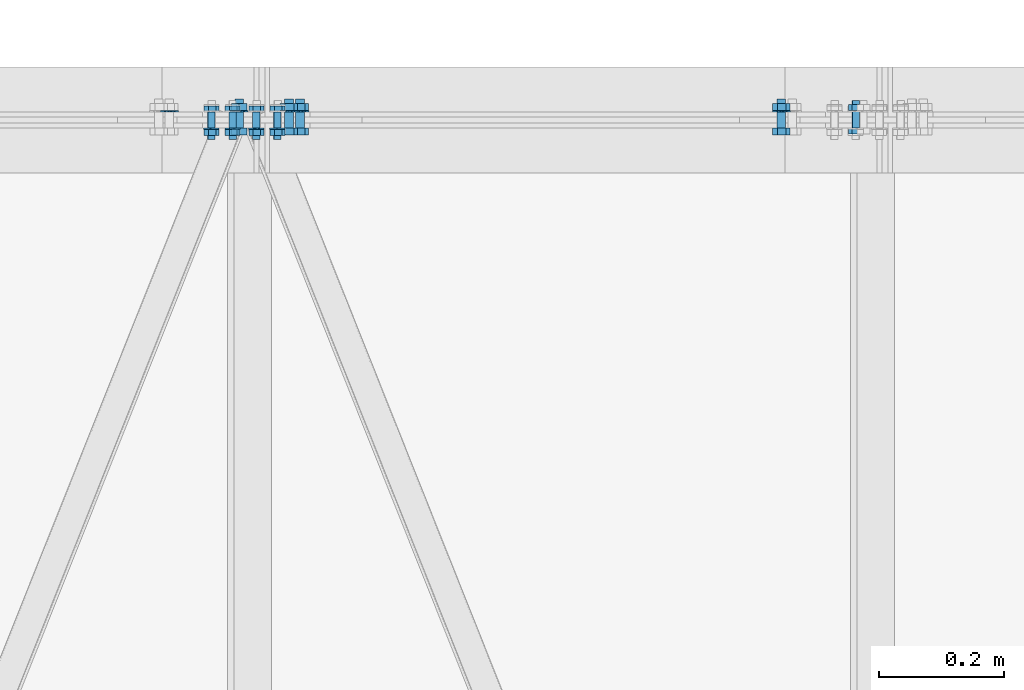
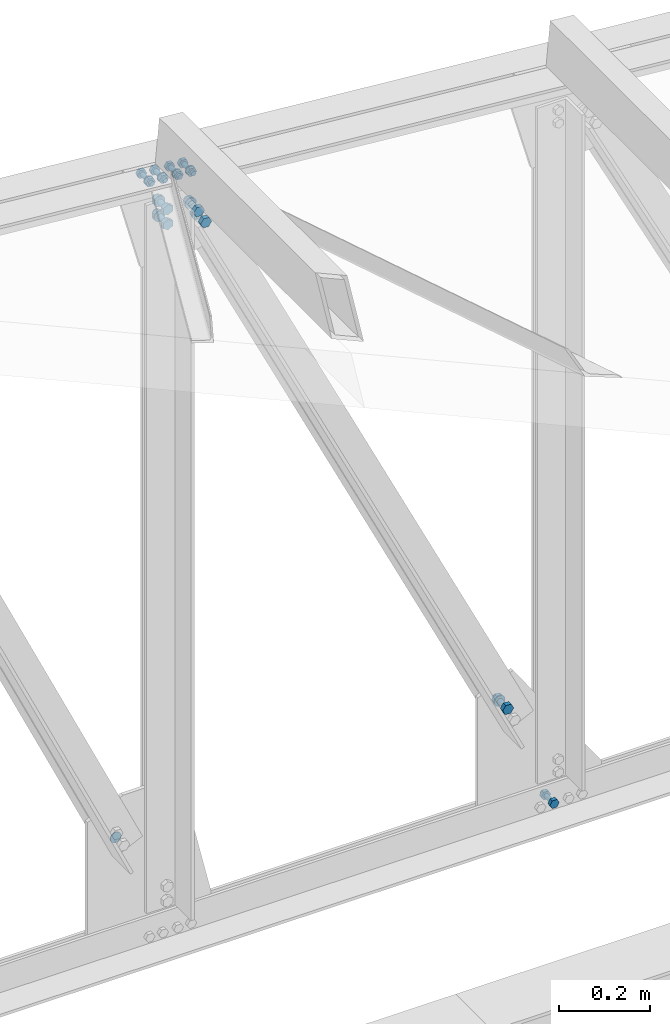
# One storey, part 194 of 251: 40 mechanical fasteners.
"""IFC4 building model written with IfcOpenShell, lengths in metres."""

from ifc_helpers import new_model, si_unit, frame, origin_with_axes, place, context, project, spatial, polyline, outline, extrude, type_object, element, save


model = new_model("IFC4")

# Units and contexts
model_context = context("Model", 3, precision=1e-05, world=origin_with_axes())
ifc_project = project(units=[si_unit("LENGTHUNIT", "METRE"), si_unit("AREAUNIT", "SQUARE_METRE"), si_unit("VOLUMEUNIT", "CUBIC_METRE"), si_unit("MASSUNIT", "GRAM", prefix="KILO"), si_unit("TIMEUNIT", "SECOND"), si_unit("PLANEANGLEUNIT", "RADIAN"), si_unit("SOLIDANGLEUNIT", "STERADIAN"), si_unit("THERMODYNAMICTEMPERATUREUNIT", "DEGREE_CELSIUS")], contexts=[model_context])

# Site, building, storey
placement_1 = place(None, origin_with_axes())
site = spatial("IfcSite", under=ifc_project, at=placement_1, Name="Italia", CompositionType="ELEMENT")
building = spatial("IfcBuilding", under=site, at=placement_1, Name="Deposito", CompositionType="ELEMENT")
storey = spatial("IfcBuildingStorey", under=building, at=placement_1, Name="Storey 0", CompositionType="ELEMENT", Elevation=0.0)

# Mechanical fasteners
mechanical_fastener_type_1 = type_object("IfcMechanicalFastenerType", Name="Reticolare 6", PredefinedType="BOLT")
placement_2 = place(placement_1, origin_with_axes())
mechanical_fastener_1_placement = place(placement_2, origin_with_axes())
element("IfcMechanicalFastener", 1, at=mechanical_fastener_1_placement, inside=storey, type_object=mechanical_fastener_type_1, Name="Reticolare 6", NominalDiameter=0.028, context=model_context, shape_type="SweptSolid", body=[
    extrude(outline(polyline([(0.0, 0.0), (-0.000476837, -0.00362349), (-0.0018754, -0.00699997), (-0.00410032, -0.00989962), (-0.00699997, -0.0121245), (-0.0103765, -0.0135231), (-0.0139999, -0.0139999), (-0.0176234, -0.0135231), (-0.0209999, -0.0121245), (-0.0238996, -0.00989962), (-0.0261245, -0.00699997), (-0.027523, -0.00362349), (-0.0279999, 0.0), (-0.027523, 0.00362349), (-0.0261245, 0.00699997), (-0.0238996, 0.00989962), (-0.0209999, 0.0121245), (-0.0176234, 0.0135231), (-0.0139999, 0.0139999), (-0.0103765, 0.0135231), (-0.00699997, 0.0121245), (-0.00410032, 0.00989962), (-0.0018754, 0.00699997), (-0.000476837, 0.00362349), (0.0, 0.0)])), frame((7.93889, 20.015, 5.27986), z_axis=(0.0, -1.0, 0.0), x_axis=(1.0, 0.0, 0.0)), (0.0, 0.0, 1.0), 0.0019989),
])
mechanical_fastener_type_2 = type_object("IfcMechanicalFastenerType", Name="Reticolare 6", PredefinedType="BOLT")
mechanical_fastener_2_placement = place(placement_2, origin_with_axes())
element("IfcMechanicalFastener", 2, at=mechanical_fastener_2_placement, inside=storey, type_object=mechanical_fastener_type_2, Name="Reticolare 6", NominalDiameter=0.0119997, context=model_context, shape_type="SweptSolid", body=[
    extrude(outline(polyline([(0.0, 0.0), (-0.0120001, 0.0), (-0.0180006, 0.0103922), (-0.0120001, 0.0207844), (0.0, 0.0207844), (0.00599957, 0.0103922), (0.0, 0.0)])), frame((9.02886, 19.987, 4.99661), z_axis=(0.0, -1.0, 0.0), x_axis=(1.0, 0.0, 0.0)), (0.0, 0.0, 1.0), 0.00959969),
])
mechanical_fastener_type_3 = type_object("IfcMechanicalFastenerType", Name="Reticolare 6", PredefinedType="BOLT")
mechanical_fastener_3_placement = place(placement_2, origin_with_axes())
element("IfcMechanicalFastener", 3, at=mechanical_fastener_3_placement, inside=storey, type_object=mechanical_fastener_type_3, Name="Reticolare 6", NominalDiameter=0.012, context=model_context, shape_type="SweptSolid", body=[
    extrude(outline(polyline([(0.0, 0.0), (-0.000204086, -0.00155306), (-0.000802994, -0.00299978), (-0.00175667, -0.00424242), (-0.00299931, -0.00519609), (-0.00444698, -0.00579548), (-0.00599957, -0.00600004), (-0.00755215, -0.00579548), (-0.00899982, -0.00519609), (-0.0102425, -0.00424242), (-0.0111961, -0.00299978), (-0.011795, -0.00155306), (-0.0119991, 0.0), (-0.011795, 0.00155306), (-0.0111961, 0.00299978), (-0.0102425, 0.00424242), (-0.00899982, 0.00519609), (-0.00755215, 0.00579548), (-0.00599957, 0.00600004), (-0.00444698, 0.00579548), (-0.00299931, 0.00519609), (-0.00175667, 0.00424242), (-0.000802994, 0.00299978), (-0.000204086, 0.00155306), (0.0, 0.0)])), frame((9.02886, 20.031, 5.007), z_axis=(0.0, -1.0, 0.0), x_axis=(1.0, 0.0, 0.0)), (0.0, 0.0, 1.0), 0.0440006),
])
mechanical_fastener_type_4 = type_object("IfcMechanicalFastenerType", Name="Reticolare 6", PredefinedType="BOLT")
mechanical_fastener_4_placement = place(placement_2, origin_with_axes())
element("IfcMechanicalFastener", 4, at=mechanical_fastener_4_placement, inside=storey, type_object=mechanical_fastener_type_4, Name="Reticolare 6", NominalDiameter=0.0119997, context=model_context, shape_type="SweptSolid", body=[
    extrude(outline(polyline([(0.0, 0.0), (-0.0120001, 0.0), (-0.0180006, 0.0103922), (-0.0120001, 0.0207844), (0.0, 0.0207844), (0.00599957, 0.0103922), (0.0, 0.0)])), frame((9.02886, 20.0246, 4.99661), z_axis=(0.0, -1.0, 0.0), x_axis=(1.0, 0.0, 0.0)), (0.0, 0.0, 1.0), 0.00959969),
])
mechanical_fastener_type_5 = type_object("IfcMechanicalFastenerType", Name="Reticolare 6", PredefinedType="BOLT")
mechanical_fastener_5_placement = place(placement_2, origin_with_axes())
element("IfcMechanicalFastener", 5, at=mechanical_fastener_5_placement, inside=storey, type_object=mechanical_fastener_type_5, Name="Reticolare 6", NominalDiameter=0.0139994, context=model_context, shape_type="SweptSolid", body=[
    extrude(outline(polyline([(0.0, 0.0), (-0.00612926, 0.0125871), (0.00170708, 0.0241885), (0.0156717, 0.0232029), (0.021801, 0.0106158), (0.0139647, -0.000985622), (0.0, 0.0)])), frame((8.89576, 19.987, 5.29291), z_axis=(0.0, -1.0, 0.0), x_axis=(1.0, 0.0, 0.0)), (0.0, 0.0, 1.0), 0.0112),
])
mechanical_fastener_type_6 = type_object("IfcMechanicalFastenerType", Name="Reticolare 6", PredefinedType="BOLT")
mechanical_fastener_6_placement = place(placement_2, origin_with_axes())
element("IfcMechanicalFastener", 6, at=mechanical_fastener_6_placement, inside=storey, type_object=mechanical_fastener_type_6, Name="Reticolare 6", NominalDiameter=0.014, context=model_context, shape_type="SweptSolid", body=[
    extrude(outline(polyline([(0.0, 0.0), (-0.000238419, -0.0018115), (-0.000937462, -0.00349998), (-0.0020504, -0.00494957), (-0.00349998, -0.00606203), (-0.00518799, -0.00676155), (-0.00699997, -0.00699997), (-0.00881195, -0.00676155), (-0.0105, -0.00606203), (-0.0119495, -0.00494957), (-0.0130625, -0.00349998), (-0.0137615, -0.0018115), (-0.0139999, 0.0), (-0.0137615, 0.0018115), (-0.0130625, 0.00349998), (-0.0119495, 0.00494957), (-0.0105, 0.00606203), (-0.00881195, 0.00676155), (-0.00699997, 0.00699997), (-0.00518799, 0.00676155), (-0.00349998, 0.00606203), (-0.0020504, 0.00494957), (-0.000937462, 0.00349998), (-0.000238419, 0.0018115), (0.0, 0.0)])), frame((8.91059, 20.034, 5.30451), z_axis=(0.0, -1.0, 0.0), x_axis=(1.0, 0.0, 0.0)), (0.0, 0.0, 1.0), 0.0470009),
])
mechanical_fastener_type_7 = type_object("IfcMechanicalFastenerType", Name="Reticolare 6", PredefinedType="BOLT")
mechanical_fastener_7_placement = place(placement_2, origin_with_axes())
element("IfcMechanicalFastener", 7, at=mechanical_fastener_7_placement, inside=storey, type_object=mechanical_fastener_type_7, Name="Reticolare 6", NominalDiameter=0.0139994, context=model_context, shape_type="SweptSolid", body=[
    extrude(outline(polyline([(0.0, 0.0), (-0.00612926, 0.0125871), (0.00170708, 0.0241885), (0.0156717, 0.0232029), (0.021801, 0.0106158), (0.0139647, -0.000985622), (0.0, 0.0)])), frame((8.89576, 20.0262, 5.29291), z_axis=(0.0, -1.0, 0.0), x_axis=(1.0, 0.0, 0.0)), (0.0, 0.0, 1.0), 0.0112),
])
mechanical_fastener_type_8 = type_object("IfcMechanicalFastenerType", Name="Reticolare 6", PredefinedType="BOLT")
mechanical_fastener_8_placement = place(placement_2, origin_with_axes())
element("IfcMechanicalFastener", 8, at=mechanical_fastener_8_placement, inside=storey, type_object=mechanical_fastener_type_8, Name="Reticolare 6", NominalDiameter=0.028, context=model_context, shape_type="SweptSolid", body=[
    extrude(outline(polyline([(0.0, 0.0), (-0.000476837, -0.00362349), (-0.00187588, -0.00699997), (-0.0041008, -0.00989962), (-0.00699997, -0.0121245), (-0.0103769, -0.0135231), (-0.0139999, -0.0139999), (-0.0176229, -0.0135231), (-0.0209999, -0.0121245), (-0.0238991, -0.00989962), (-0.026124, -0.00699997), (-0.027523, -0.00362349), (-0.0279999, 0.0), (-0.027523, 0.00362349), (-0.026124, 0.00699997), (-0.0238991, 0.00989962), (-0.0209999, 0.0121245), (-0.0176229, 0.0135231), (-0.0139999, 0.0139999), (-0.0103769, 0.0135231), (-0.00699997, 0.0121245), (-0.0041008, 0.00989962), (-0.00187588, 0.00699997), (-0.000476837, 0.00362349), (0.0, 0.0)])), frame((8.91759, 20.015, 5.30451), z_axis=(0.0, -1.0, 0.0), x_axis=(1.0, 0.0, 0.0)), (0.0, 0.0, 1.0), 0.0019989),
])
mechanical_fastener_type_9 = type_object("IfcMechanicalFastenerType", Name="Reticolare 6", PredefinedType="BOLT")
mechanical_fastener_9_placement = place(placement_2, origin_with_axes())
element("IfcMechanicalFastener", 9, at=mechanical_fastener_9_placement, inside=storey, type_object=mechanical_fastener_type_9, Name="Reticolare 6", NominalDiameter=0.0119996, context=model_context, shape_type="SweptSolid", body=[
    extrude(outline(polyline([(0.0, 0.0), (0.0119543, 0.00104618), (0.018837, -0.00878382), (0.0137653, -0.0196595), (0.00181103, -0.0207052), (-0.00507164, -0.0108757), (0.0, 0.0)])), frame((8.03301, 20.013, 7.05038), z_axis=(0.0, 1.0, 0.0), x_axis=(-1.0, 0.0, 0.0)), (0.0, 0.0, 1.0), 0.00959969),
])
mechanical_fastener_type_10 = type_object("IfcMechanicalFastenerType", Name="Reticolare 6", PredefinedType="BOLT")
mechanical_fastener_10_placement = place(placement_2, origin_with_axes())
element("IfcMechanicalFastener", 10, at=mechanical_fastener_10_placement, inside=storey, type_object=mechanical_fastener_type_10, Name="Reticolare 6", NominalDiameter=0.012, context=model_context, shape_type="SweptSolid", body=[
    extrude(outline(polyline([(0.0, 0.0), (-0.000204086, -0.00155306), (-0.000802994, -0.00299978), (-0.00175667, -0.00424242), (-0.00299931, -0.00519609), (-0.00444698, -0.00579548), (-0.00599957, -0.00600004), (-0.00755215, -0.00579548), (-0.00899982, -0.00519609), (-0.0102425, -0.00424242), (-0.0111961, -0.00299978), (-0.011795, -0.00155306), (-0.0119991, 0.0), (-0.011795, 0.00155306), (-0.0111961, 0.00299978), (-0.0102425, 0.00424242), (-0.00899982, 0.00519609), (-0.00755215, 0.00579548), (-0.00599957, 0.00600004), (-0.00444698, 0.00579548), (-0.00299931, 0.00519609), (-0.00175667, 0.00424242), (-0.000802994, 0.00299978), (-0.000204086, 0.00155306), (0.0, 0.0)])), frame((8.02013, 19.969, 7.04055), z_axis=(0.0, 1.0, 0.0), x_axis=(-1.0, 0.0, 0.0)), (0.0, 0.0, 1.0), 0.0440006),
])
mechanical_fastener_type_11 = type_object("IfcMechanicalFastenerType", Name="Reticolare 6", PredefinedType="BOLT")
mechanical_fastener_11_placement = place(placement_2, origin_with_axes())
element("IfcMechanicalFastener", 11, at=mechanical_fastener_11_placement, inside=storey, type_object=mechanical_fastener_type_11, Name="Reticolare 6", NominalDiameter=0.0119996, context=model_context, shape_type="SweptSolid", body=[
    extrude(outline(polyline([(0.0, 0.0), (0.0119543, 0.00104618), (0.018837, -0.00878382), (0.0137653, -0.0196595), (0.00181103, -0.0207052), (-0.00507164, -0.0108757), (0.0, 0.0)])), frame((8.03301, 19.9754, 7.05038), z_axis=(0.0, 1.0, 0.0), x_axis=(-1.0, 0.0, 0.0)), (0.0, 0.0, 1.0), 0.00959969),
])
mechanical_fastener_type_12 = type_object("IfcMechanicalFastenerType", Name="Reticolare 6", PredefinedType="BOLT")
mechanical_fastener_12_placement = place(placement_2, origin_with_axes())
element("IfcMechanicalFastener", 12, at=mechanical_fastener_12_placement, inside=storey, type_object=mechanical_fastener_type_12, Name="Reticolare 6", NominalDiameter=0.024, context=model_context, shape_type="SweptSolid", body=[
    extrude(outline(polyline([(0.0, 0.0), (-0.000409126, -0.00310564), (-0.00160789, -0.00600004), (-0.00351524, -0.00848532), (-0.00600052, -0.0103922), (-0.00889397, -0.011591), (-0.0120001, -0.0120001), (-0.0151062, -0.011591), (-0.0179996, -0.0103922), (-0.0204849, -0.00848532), (-0.0223923, -0.00600004), (-0.023591, -0.00310564), (-0.0240002, 0.0), (-0.023591, 0.00310564), (-0.0223923, 0.00600004), (-0.0204849, 0.00848532), (-0.0179996, 0.0103922), (-0.0151062, 0.011591), (-0.0120001, 0.0120001), (-0.00889397, 0.011591), (-0.00600052, 0.0103922), (-0.00351524, 0.00848532), (-0.00160789, 0.00600004), (-0.000409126, 0.00310564), (0.0, 0.0)])), frame((8.01413, 19.985, 7.04055), z_axis=(0.0, 1.0, 0.0), x_axis=(-1.0, 0.0, 0.0)), (0.0, 0.0, 1.0), 0.0019989),
])
mechanical_fastener_type_13 = type_object("IfcMechanicalFastenerType", Name="Reticolare 6", PredefinedType="BOLT")
mechanical_fastener_13_placement = place(placement_2, origin_with_axes())
element("IfcMechanicalFastener", 13, at=mechanical_fastener_13_placement, inside=storey, type_object=mechanical_fastener_type_13, Name="Reticolare 6", NominalDiameter=0.0119999, context=model_context, shape_type="SweptSolid", body=[
    extrude(outline(polyline([(0.0, 0.0), (0.0119543, 0.0010457), (0.0188375, -0.00878429), (0.0137658, -0.01966), (0.0018115, -0.0207057), (-0.00507116, -0.0108757), (0.0, 0.0)])), frame((7.99914, 20.013, 7.05334), z_axis=(0.0, 1.0, 0.0), x_axis=(-1.0, 0.0, 0.0)), (0.0, 0.0, 1.0), 0.00959969),
])
mechanical_fastener_type_14 = type_object("IfcMechanicalFastenerType", Name="Reticolare 6", PredefinedType="BOLT")
mechanical_fastener_14_placement = place(placement_2, origin_with_axes())
element("IfcMechanicalFastener", 14, at=mechanical_fastener_14_placement, inside=storey, type_object=mechanical_fastener_type_14, Name="Reticolare 6", NominalDiameter=0.012, context=model_context, shape_type="SweptSolid", body=[
    extrude(outline(polyline([(0.0, 0.0), (-0.000204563, -0.00155306), (-0.000803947, -0.00299978), (-0.00175762, -0.00424242), (-0.00300026, -0.00519609), (-0.00444698, -0.00579548), (-0.00600004, -0.00600004), (-0.0075531, -0.00579548), (-0.00899982, -0.00519609), (-0.0102425, -0.00424242), (-0.0111961, -0.00299978), (-0.0117955, -0.00155306), (-0.0120001, 0.0), (-0.0117955, 0.00155306), (-0.0111961, 0.00299978), (-0.0102425, 0.00424242), (-0.00899982, 0.00519609), (-0.0075531, 0.00579548), (-0.00600004, 0.00600004), (-0.00444698, 0.00579548), (-0.00300026, 0.00519609), (-0.00175762, 0.00424242), (-0.000803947, 0.00299978), (-0.000204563, 0.00155306), (0.0, 0.0)])), frame((7.98626, 19.969, 7.04352), z_axis=(0.0, 1.0, 0.0), x_axis=(-1.0, 0.0, 0.0)), (0.0, 0.0, 1.0), 0.0440006),
])
mechanical_fastener_type_15 = type_object("IfcMechanicalFastenerType", Name="Reticolare 6", PredefinedType="BOLT")
mechanical_fastener_15_placement = place(placement_2, origin_with_axes())
element("IfcMechanicalFastener", 15, at=mechanical_fastener_15_placement, inside=storey, type_object=mechanical_fastener_type_15, Name="Reticolare 6", NominalDiameter=0.0119999, context=model_context, shape_type="SweptSolid", body=[
    extrude(outline(polyline([(0.0, 0.0), (0.0119543, 0.0010457), (0.0188375, -0.00878429), (0.0137658, -0.01966), (0.0018115, -0.0207057), (-0.00507116, -0.0108757), (0.0, 0.0)])), frame((7.99914, 19.9754, 7.05334), z_axis=(0.0, 1.0, 0.0), x_axis=(-1.0, 0.0, 0.0)), (0.0, 0.0, 1.0), 0.00959969),
])
mechanical_fastener_type_16 = type_object("IfcMechanicalFastenerType", Name="Reticolare 6", PredefinedType="BOLT")
mechanical_fastener_16_placement = place(placement_2, origin_with_axes())
element("IfcMechanicalFastener", 16, at=mechanical_fastener_16_placement, inside=storey, type_object=mechanical_fastener_type_16, Name="Reticolare 6", NominalDiameter=0.024, context=model_context, shape_type="SweptSolid", body=[
    extrude(outline(polyline([(0.0, 0.0), (-0.000409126, -0.00310564), (-0.00160789, -0.00600004), (-0.00351477, -0.00848532), (-0.00600004, -0.0103922), (-0.00889444, -0.011591), (-0.0120001, -0.0120001), (-0.0151057, -0.011591), (-0.0180001, -0.0103922), (-0.0204854, -0.00848532), (-0.0223927, -0.00600004), (-0.0235915, -0.00310564), (-0.0239997, 0.0), (-0.0235915, 0.00310564), (-0.0223927, 0.00600004), (-0.0204854, 0.00848532), (-0.0180001, 0.0103922), (-0.0151057, 0.011591), (-0.0120001, 0.0120001), (-0.00889444, 0.011591), (-0.00600004, 0.0103922), (-0.00351477, 0.00848532), (-0.00160789, 0.00600004), (-0.000409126, 0.00310564), (0.0, 0.0)])), frame((7.98026, 19.985, 7.04351), z_axis=(0.0, 1.0, 0.0), x_axis=(-1.0, 0.0, 0.0)), (0.0, 0.0, 1.0), 0.0019989),
])
mechanical_fastener_type_17 = type_object("IfcMechanicalFastenerType", Name="Reticolare 6", PredefinedType="BOLT")
mechanical_fastener_17_placement = place(placement_2, origin_with_axes())
element("IfcMechanicalFastener", 17, at=mechanical_fastener_17_placement, inside=storey, type_object=mechanical_fastener_type_17, Name="Reticolare 6", NominalDiameter=0.0119997, context=model_context, shape_type="SweptSolid", body=[
    extrude(outline(polyline([(0.0, 0.0), (0.0119543, 0.0010457), (0.0188379, -0.00878429), (0.0137663, -0.01966), (0.00181198, -0.0207057), (-0.00507069, -0.0108757), (0.0, 0.0)])), frame((8.07086, 20.013, 7.04707), z_axis=(0.0, 1.0, 0.0), x_axis=(-1.0, 0.0, 0.0)), (0.0, 0.0, 1.0), 0.00959969),
])
mechanical_fastener_type_18 = type_object("IfcMechanicalFastenerType", Name="Reticolare 6", PredefinedType="BOLT")
mechanical_fastener_18_placement = place(placement_2, origin_with_axes())
element("IfcMechanicalFastener", 18, at=mechanical_fastener_18_placement, inside=storey, type_object=mechanical_fastener_type_18, Name="Reticolare 6", NominalDiameter=0.012, context=model_context, shape_type="SweptSolid", body=[
    extrude(outline(polyline([(0.0, 0.0), (-0.000204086, -0.00155306), (-0.000802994, -0.00299978), (-0.00175667, -0.00424242), (-0.00299931, -0.00519609), (-0.00444698, -0.00579548), (-0.00599957, -0.00600004), (-0.00755215, -0.00579548), (-0.00899982, -0.00519609), (-0.0102425, -0.00424242), (-0.0111961, -0.00299978), (-0.011795, -0.00155306), (-0.0119991, 0.0), (-0.011795, 0.00155306), (-0.0111961, 0.00299978), (-0.0102425, 0.00424242), (-0.00899982, 0.00519609), (-0.00755215, 0.00579548), (-0.00599957, 0.00600004), (-0.00444698, 0.00579548), (-0.00299931, 0.00519609), (-0.00175667, 0.00424242), (-0.000802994, 0.00299978), (-0.000204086, 0.00155306), (0.0, 0.0)])), frame((8.05798, 19.969, 7.03724), z_axis=(0.0, 1.0, 0.0), x_axis=(-1.0, 0.0, 0.0)), (0.0, 0.0, 1.0), 0.0440006),
])
mechanical_fastener_type_19 = type_object("IfcMechanicalFastenerType", Name="Reticolare 6", PredefinedType="BOLT")
mechanical_fastener_19_placement = place(placement_2, origin_with_axes())
element("IfcMechanicalFastener", 19, at=mechanical_fastener_19_placement, inside=storey, type_object=mechanical_fastener_type_19, Name="Reticolare 6", NominalDiameter=0.0119997, context=model_context, shape_type="SweptSolid", body=[
    extrude(outline(polyline([(0.0, 0.0), (0.0119543, 0.0010457), (0.0188379, -0.00878429), (0.0137663, -0.01966), (0.00181198, -0.0207057), (-0.00507069, -0.0108757), (0.0, 0.0)])), frame((8.07086, 19.9754, 7.04707), z_axis=(0.0, 1.0, 0.0), x_axis=(-1.0, 0.0, 0.0)), (0.0, 0.0, 1.0), 0.00959969),
])
mechanical_fastener_type_20 = type_object("IfcMechanicalFastenerType", Name="Reticolare 6", PredefinedType="BOLT")
mechanical_fastener_20_placement = place(placement_2, origin_with_axes())
element("IfcMechanicalFastener", 20, at=mechanical_fastener_20_placement, inside=storey, type_object=mechanical_fastener_type_20, Name="Reticolare 6", NominalDiameter=0.024, context=model_context, shape_type="SweptSolid", body=[
    extrude(outline(polyline([(0.0, 0.0), (-0.000409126, -0.00310564), (-0.00160789, -0.00600004), (-0.00351524, -0.00848532), (-0.00600052, -0.0103922), (-0.00889397, -0.011591), (-0.0120001, -0.0120001), (-0.0151062, -0.011591), (-0.0179996, -0.0103922), (-0.0204849, -0.00848532), (-0.0223923, -0.00600004), (-0.023591, -0.00310564), (-0.0240002, 0.0), (-0.023591, 0.00310564), (-0.0223923, 0.00600004), (-0.0204849, 0.00848532), (-0.0179996, 0.0103922), (-0.0151062, 0.011591), (-0.0120001, 0.0120001), (-0.00889397, 0.011591), (-0.00600052, 0.0103922), (-0.00351524, 0.00848532), (-0.00160789, 0.00600004), (-0.000409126, 0.00310564), (0.0, 0.0)])), frame((8.05198, 19.985, 7.03724), z_axis=(0.0, 1.0, 0.0), x_axis=(-1.0, 0.0, 0.0)), (0.0, 0.0, 1.0), 0.0019989),
])
mechanical_fastener_type_21 = type_object("IfcMechanicalFastenerType", Name="Reticolare 6", PredefinedType="BOLT")
mechanical_fastener_21_placement = place(placement_2, origin_with_axes())
element("IfcMechanicalFastener", 21, at=mechanical_fastener_21_placement, inside=storey, type_object=mechanical_fastener_type_21, Name="Reticolare 6", NominalDiameter=0.0119996, context=model_context, shape_type="SweptSolid", body=[
    extrude(outline(polyline([(0.0, 0.0), (0.0119543, 0.0010457), (0.0188379, -0.00878382), (0.0137663, -0.0196595), (0.00181198, -0.0207052), (-0.00507069, -0.0108757), (0.0, 0.0)])), frame((8.10474, 20.013, 7.04411), z_axis=(0.0, 1.0, 0.0), x_axis=(-1.0, 0.0, 0.0)), (0.0, 0.0, 1.0), 0.00959969),
])
mechanical_fastener_type_22 = type_object("IfcMechanicalFastenerType", Name="Reticolare 6", PredefinedType="BOLT")
mechanical_fastener_22_placement = place(placement_2, origin_with_axes())
element("IfcMechanicalFastener", 22, at=mechanical_fastener_22_placement, inside=storey, type_object=mechanical_fastener_type_22, Name="Reticolare 6", NominalDiameter=0.012, context=model_context, shape_type="SweptSolid", body=[
    extrude(outline(polyline([(0.0, 0.0), (-0.000204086, -0.00155306), (-0.000802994, -0.00299978), (-0.00175667, -0.00424242), (-0.00299931, -0.00519609), (-0.00444698, -0.00579548), (-0.00599957, -0.00600004), (-0.00755215, -0.00579548), (-0.00899982, -0.00519609), (-0.0102425, -0.00424242), (-0.0111961, -0.00299978), (-0.011795, -0.00155306), (-0.0119991, 0.0), (-0.011795, 0.00155306), (-0.0111961, 0.00299978), (-0.0102425, 0.00424242), (-0.00899982, 0.00519609), (-0.00755215, 0.00579548), (-0.00599957, 0.00600004), (-0.00444698, 0.00579548), (-0.00299931, 0.00519609), (-0.00175667, 0.00424242), (-0.000802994, 0.00299978), (-0.000204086, 0.00155306), (0.0, 0.0)])), frame((8.09185, 19.969, 7.03428), z_axis=(0.0, 1.0, 0.0), x_axis=(-1.0, 0.0, 0.0)), (0.0, 0.0, 1.0), 0.0440006),
])
mechanical_fastener_type_23 = type_object("IfcMechanicalFastenerType", Name="Reticolare 6", PredefinedType="BOLT")
mechanical_fastener_23_placement = place(placement_2, origin_with_axes())
element("IfcMechanicalFastener", 23, at=mechanical_fastener_23_placement, inside=storey, type_object=mechanical_fastener_type_23, Name="Reticolare 6", NominalDiameter=0.0119996, context=model_context, shape_type="SweptSolid", body=[
    extrude(outline(polyline([(0.0, 0.0), (0.0119543, 0.0010457), (0.0188379, -0.00878382), (0.0137663, -0.0196595), (0.00181198, -0.0207052), (-0.00507069, -0.0108757), (0.0, 0.0)])), frame((8.10474, 19.9754, 7.04411), z_axis=(0.0, 1.0, 0.0), x_axis=(-1.0, 0.0, 0.0)), (0.0, 0.0, 1.0), 0.00959969),
])
mechanical_fastener_type_24 = type_object("IfcMechanicalFastenerType", Name="Reticolare 6", PredefinedType="BOLT")
mechanical_fastener_24_placement = place(placement_2, origin_with_axes())
element("IfcMechanicalFastener", 24, at=mechanical_fastener_24_placement, inside=storey, type_object=mechanical_fastener_type_24, Name="Reticolare 6", NominalDiameter=0.024, context=model_context, shape_type="SweptSolid", body=[
    extrude(outline(polyline([(0.0, 0.0), (-0.000409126, -0.00310564), (-0.00160789, -0.00600004), (-0.00351524, -0.00848532), (-0.00600052, -0.0103922), (-0.00889397, -0.011591), (-0.0120001, -0.0120001), (-0.0151062, -0.011591), (-0.0179996, -0.0103922), (-0.0204849, -0.00848532), (-0.0223923, -0.00600004), (-0.023591, -0.00310564), (-0.0240002, 0.0), (-0.023591, 0.00310564), (-0.0223923, 0.00600004), (-0.0204849, 0.00848532), (-0.0179996, 0.0103922), (-0.0151062, 0.011591), (-0.0120001, 0.0120001), (-0.00889397, 0.011591), (-0.00600052, 0.0103922), (-0.00351524, 0.00848532), (-0.00160789, 0.00600004), (-0.000409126, 0.00310564), (0.0, 0.0)])), frame((8.08585, 19.985, 7.03428), z_axis=(0.0, 1.0, 0.0), x_axis=(-1.0, 0.0, 0.0)), (0.0, 0.0, 1.0), 0.0019989),
])
mechanical_fastener_type_25 = type_object("IfcMechanicalFastenerType", Name="Reticolare 6", PredefinedType="BOLT")
mechanical_fastener_25_placement = place(placement_2, origin_with_axes())
element("IfcMechanicalFastener", 25, at=mechanical_fastener_25_placement, inside=storey, type_object=mechanical_fastener_type_25, Name="Reticolare 6", NominalDiameter=0.0139997, context=model_context, shape_type="SweptSolid", body=[
    extrude(outline(polyline([(0.0, 0.0), (0.0, -0.0139999), (-0.0121241, -0.0209999), (-0.0242481, -0.0139999), (-0.0242481, 0.0), (-0.0121241, 0.00699997), (0.0, 0.0)])), frame((8.04879, 19.987, 6.96111), z_axis=(0.0, -1.0, 0.0), x_axis=(1.0, 0.0, 0.0)), (0.0, 0.0, 1.0), 0.0112),
])
mechanical_fastener_type_26 = type_object("IfcMechanicalFastenerType", Name="Reticolare 6", PredefinedType="BOLT")
mechanical_fastener_26_placement = place(placement_2, origin_with_axes())
element("IfcMechanicalFastener", 26, at=mechanical_fastener_26_placement, inside=storey, type_object=mechanical_fastener_type_26, Name="Reticolare 6", NominalDiameter=0.014, context=model_context, shape_type="SweptSolid", body=[
    extrude(outline(polyline([(0.0, 0.0), (-0.000238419, -0.0018115), (-0.000937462, -0.00349998), (-0.0020504, -0.00494957), (-0.00349998, -0.00606203), (-0.00518799, -0.00676155), (-0.00699997, -0.00699997), (-0.00881195, -0.00676155), (-0.0105, -0.00606203), (-0.0119495, -0.00494957), (-0.0130625, -0.00349998), (-0.0137615, -0.0018115), (-0.0139999, 0.0), (-0.0137615, 0.0018115), (-0.0130625, 0.00349998), (-0.0119495, 0.00494957), (-0.0105, 0.00606203), (-0.00881195, 0.00676155), (-0.00699997, 0.00699997), (-0.00518799, 0.00676155), (-0.00349998, 0.00606203), (-0.0020504, 0.00494957), (-0.000937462, 0.00349998), (-0.000238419, 0.0018115), (0.0, 0.0)])), frame((8.04366, 20.034, 6.95411), z_axis=(0.0, -1.0, 0.0), x_axis=(1.0, 0.0, 0.0)), (0.0, 0.0, 1.0), 0.0470009),
])
mechanical_fastener_type_27 = type_object("IfcMechanicalFastenerType", Name="Reticolare 6", PredefinedType="BOLT")
mechanical_fastener_27_placement = place(placement_2, origin_with_axes())
element("IfcMechanicalFastener", 27, at=mechanical_fastener_27_placement, inside=storey, type_object=mechanical_fastener_type_27, Name="Reticolare 6", NominalDiameter=0.0139997, context=model_context, shape_type="SweptSolid", body=[
    extrude(outline(polyline([(0.0, 0.0), (0.0, -0.0139999), (-0.0121241, -0.0209999), (-0.0242481, -0.0139999), (-0.0242481, 0.0), (-0.0121241, 0.00699997), (0.0, 0.0)])), frame((8.04879, 20.0262, 6.96111), z_axis=(0.0, -1.0, 0.0), x_axis=(1.0, 0.0, 0.0)), (0.0, 0.0, 1.0), 0.0112),
])
mechanical_fastener_type_28 = type_object("IfcMechanicalFastenerType", Name="Reticolare 6", PredefinedType="BOLT")
mechanical_fastener_28_placement = place(placement_2, origin_with_axes())
element("IfcMechanicalFastener", 28, at=mechanical_fastener_28_placement, inside=storey, type_object=mechanical_fastener_type_28, Name="Reticolare 6", NominalDiameter=0.028, context=model_context, shape_type="SweptSolid", body=[
    extrude(outline(polyline([(0.0, 0.0), (-0.000476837, -0.00362349), (-0.00187588, -0.00699997), (-0.0041008, -0.00989962), (-0.00699997, -0.0121245), (-0.0103769, -0.0135231), (-0.0139999, -0.0139999), (-0.0176229, -0.0135231), (-0.0209999, -0.0121245), (-0.0238991, -0.00989962), (-0.026124, -0.00699997), (-0.027523, -0.00362349), (-0.0279999, 0.0), (-0.027523, 0.00362349), (-0.026124, 0.00699997), (-0.0238991, 0.00989962), (-0.0209999, 0.0121245), (-0.0176229, 0.0135231), (-0.0139999, 0.0139999), (-0.0103769, 0.0135231), (-0.00699997, 0.0121245), (-0.0041008, 0.00989962), (-0.00187588, 0.00699997), (-0.000476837, 0.00362349), (0.0, 0.0)])), frame((8.05066, 20.015, 6.95411), z_axis=(0.0, -1.0, 0.0), x_axis=(1.0, 0.0, 0.0)), (0.0, 0.0, 1.0), 0.0019989),
])
mechanical_fastener_type_29 = type_object("IfcMechanicalFastenerType", Name="Reticolare 6", PredefinedType="BOLT")
mechanical_fastener_29_placement = place(placement_2, origin_with_axes())
element("IfcMechanicalFastener", 29, at=mechanical_fastener_29_placement, inside=storey, type_object=mechanical_fastener_type_29, Name="Reticolare 6", NominalDiameter=0.0139997, context=model_context, shape_type="SweptSolid", body=[
    extrude(outline(polyline([(0.0, 0.0), (0.0, -0.0139999), (-0.0121241, -0.0210004), (-0.0242481, -0.0139999), (-0.0242481, 0.0), (-0.0121241, 0.00699997), (0.0, 0.0)])), frame((8.04879, 19.987, 6.92111), z_axis=(0.0, -1.0, 0.0), x_axis=(1.0, 0.0, 0.0)), (0.0, 0.0, 1.0), 0.0112),
])
mechanical_fastener_type_30 = type_object("IfcMechanicalFastenerType", Name="Reticolare 6", PredefinedType="BOLT")
mechanical_fastener_30_placement = place(placement_2, origin_with_axes())
element("IfcMechanicalFastener", 30, at=mechanical_fastener_30_placement, inside=storey, type_object=mechanical_fastener_type_30, Name="Reticolare 6", NominalDiameter=0.014, context=model_context, shape_type="SweptSolid", body=[
    extrude(outline(polyline([(0.0, 0.0), (-0.000238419, -0.0018115), (-0.000937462, -0.00349998), (-0.0020504, -0.00494957), (-0.00349998, -0.00606203), (-0.00518799, -0.00676155), (-0.00699997, -0.00699997), (-0.00881195, -0.00676155), (-0.0105, -0.00606203), (-0.0119495, -0.00494957), (-0.0130625, -0.00349998), (-0.0137615, -0.0018115), (-0.0139999, 0.0), (-0.0137615, 0.0018115), (-0.0130625, 0.00349998), (-0.0119495, 0.00494957), (-0.0105, 0.00606203), (-0.00881195, 0.00676155), (-0.00699997, 0.00699997), (-0.00518799, 0.00676155), (-0.00349998, 0.00606203), (-0.0020504, 0.00494957), (-0.000937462, 0.00349998), (-0.000238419, 0.0018115), (0.0, 0.0)])), frame((8.04366, 20.034, 6.91411), z_axis=(0.0, -1.0, 0.0), x_axis=(1.0, 0.0, 0.0)), (0.0, 0.0, 1.0), 0.0470009),
])
mechanical_fastener_type_31 = type_object("IfcMechanicalFastenerType", Name="Reticolare 6", PredefinedType="BOLT")
mechanical_fastener_31_placement = place(placement_2, origin_with_axes())
element("IfcMechanicalFastener", 31, at=mechanical_fastener_31_placement, inside=storey, type_object=mechanical_fastener_type_31, Name="Reticolare 6", NominalDiameter=0.0139997, context=model_context, shape_type="SweptSolid", body=[
    extrude(outline(polyline([(0.0, 0.0), (0.0, -0.0139999), (-0.0121241, -0.0210004), (-0.0242481, -0.0139999), (-0.0242481, 0.0), (-0.0121241, 0.00699997), (0.0, 0.0)])), frame((8.04879, 20.0262, 6.92111), z_axis=(0.0, -1.0, 0.0), x_axis=(1.0, 0.0, 0.0)), (0.0, 0.0, 1.0), 0.0112),
])
mechanical_fastener_type_32 = type_object("IfcMechanicalFastenerType", Name="Reticolare 6", PredefinedType="BOLT")
mechanical_fastener_32_placement = place(placement_2, origin_with_axes())
element("IfcMechanicalFastener", 32, at=mechanical_fastener_32_placement, inside=storey, type_object=mechanical_fastener_type_32, Name="Reticolare 6", NominalDiameter=0.028, context=model_context, shape_type="SweptSolid", body=[
    extrude(outline(polyline([(0.0, 0.0), (-0.000476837, -0.00362349), (-0.00187588, -0.00699997), (-0.0041008, -0.00989962), (-0.00699997, -0.0121245), (-0.0103769, -0.0135231), (-0.0139999, -0.0139999), (-0.0176229, -0.0135231), (-0.0209999, -0.0121245), (-0.0238991, -0.00989962), (-0.026124, -0.00699997), (-0.027523, -0.00362349), (-0.0279999, 0.0), (-0.027523, 0.00362349), (-0.026124, 0.00699997), (-0.0238991, 0.00989962), (-0.0209999, 0.0121245), (-0.0176229, 0.0135231), (-0.0139999, 0.0139999), (-0.0103769, 0.0135231), (-0.00699997, 0.0121245), (-0.0041008, 0.00989962), (-0.00187588, 0.00699997), (-0.000476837, 0.00362349), (0.0, 0.0)])), frame((8.05066, 20.015, 6.91411), z_axis=(0.0, -1.0, 0.0), x_axis=(1.0, 0.0, 0.0)), (0.0, 0.0, 1.0), 0.0019989),
])
mechanical_fastener_type_33 = type_object("IfcMechanicalFastenerType", Name="Reticolare 6", PredefinedType="BOLT")
mechanical_fastener_33_placement = place(placement_2, origin_with_axes())
element("IfcMechanicalFastener", 33, at=mechanical_fastener_33_placement, inside=storey, type_object=mechanical_fastener_type_33, Name="Reticolare 6", NominalDiameter=0.0140001, context=model_context, shape_type="SweptSolid", body=[
    extrude(outline(polyline([(0.0, 0.0), (-0.00612926, 0.0125871), (0.00170708, 0.0241885), (0.0156727, 0.0232029), (0.0218019, 0.0106158), (0.0139656, -0.000985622), (0.0, 0.0)])), frame((8.10836, 19.987, 6.90997), z_axis=(0.0, -1.0, 0.0), x_axis=(1.0, 0.0, 0.0)), (0.0, 0.0, 1.0), 0.0112),
])
mechanical_fastener_type_34 = type_object("IfcMechanicalFastenerType", Name="Reticolare 6", PredefinedType="BOLT")
mechanical_fastener_34_placement = place(placement_2, origin_with_axes())
element("IfcMechanicalFastener", 34, at=mechanical_fastener_34_placement, inside=storey, type_object=mechanical_fastener_type_34, Name="Reticolare 6", NominalDiameter=0.014, context=model_context, shape_type="SweptSolid", body=[
    extrude(outline(polyline([(0.0, 0.0), (-0.000238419, -0.0018115), (-0.000937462, -0.00349998), (-0.0020504, -0.00494957), (-0.00349998, -0.00606203), (-0.00518799, -0.00676155), (-0.00699997, -0.00699997), (-0.00881195, -0.00676155), (-0.0105, -0.00606203), (-0.0119495, -0.00494957), (-0.0130625, -0.00349998), (-0.0137615, -0.0018115), (-0.0139999, 0.0), (-0.0137615, 0.0018115), (-0.0130625, 0.00349998), (-0.0119495, 0.00494957), (-0.0105, 0.00606203), (-0.00881195, 0.00676155), (-0.00699997, 0.00699997), (-0.00518799, 0.00676155), (-0.00349998, 0.00606203), (-0.0020504, 0.00494957), (-0.000937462, 0.00349998), (-0.000238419, 0.0018115), (0.0, 0.0)])), frame((8.1232, 20.034, 6.92157), z_axis=(0.0, -1.0, 0.0), x_axis=(1.0, 0.0, 0.0)), (0.0, 0.0, 1.0), 0.0470009),
])
mechanical_fastener_type_35 = type_object("IfcMechanicalFastenerType", Name="Reticolare 6", PredefinedType="BOLT")
mechanical_fastener_35_placement = place(placement_2, origin_with_axes())
element("IfcMechanicalFastener", 35, at=mechanical_fastener_35_placement, inside=storey, type_object=mechanical_fastener_type_35, Name="Reticolare 6", NominalDiameter=0.0140001, context=model_context, shape_type="SweptSolid", body=[
    extrude(outline(polyline([(0.0, 0.0), (-0.00612926, 0.0125871), (0.00170708, 0.0241885), (0.0156727, 0.0232029), (0.0218019, 0.0106158), (0.0139656, -0.000985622), (0.0, 0.0)])), frame((8.10836, 20.0262, 6.90997), z_axis=(0.0, -1.0, 0.0), x_axis=(1.0, 0.0, 0.0)), (0.0, 0.0, 1.0), 0.0112),
])
mechanical_fastener_type_36 = type_object("IfcMechanicalFastenerType", Name="Reticolare 6", PredefinedType="BOLT")
mechanical_fastener_36_placement = place(placement_2, origin_with_axes())
element("IfcMechanicalFastener", 36, at=mechanical_fastener_36_placement, inside=storey, type_object=mechanical_fastener_type_36, Name="Reticolare 6", NominalDiameter=0.028, context=model_context, shape_type="SweptSolid", body=[
    extrude(outline(polyline([(0.0, 0.0), (-0.000476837, -0.00362349), (-0.00187588, -0.00699997), (-0.0041008, -0.00989962), (-0.00699997, -0.0121245), (-0.0103769, -0.0135231), (-0.0139999, -0.0139999), (-0.0176229, -0.0135231), (-0.0209999, -0.0121245), (-0.0238991, -0.00989962), (-0.026124, -0.00699997), (-0.027523, -0.00362349), (-0.0279999, 0.0), (-0.027523, 0.00362349), (-0.026124, 0.00699997), (-0.0238991, 0.00989962), (-0.0209999, 0.0121245), (-0.0176229, 0.0135231), (-0.0139999, 0.0139999), (-0.0103769, 0.0135231), (-0.00699997, 0.0121245), (-0.0041008, 0.00989962), (-0.00187588, 0.00699997), (-0.000476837, 0.00362349), (0.0, 0.0)])), frame((8.1302, 20.015, 6.92157), z_axis=(0.0, -1.0, 0.0), x_axis=(1.0, 0.0, 0.0)), (0.0, 0.0, 1.0), 0.0019989),
])
mechanical_fastener_type_37 = type_object("IfcMechanicalFastenerType", Name="Reticolare 6", PredefinedType="BOLT")
mechanical_fastener_37_placement = place(placement_2, origin_with_axes())
element("IfcMechanicalFastener", 37, at=mechanical_fastener_37_placement, inside=storey, type_object=mechanical_fastener_type_37, Name="Reticolare 6", NominalDiameter=0.0140001, context=model_context, shape_type="SweptSolid", body=[
    extrude(outline(polyline([(0.0, 0.0), (-0.00612926, 0.0125871), (0.00170708, 0.0241885), (0.0156727, 0.0232029), (0.0218019, 0.0106158), (0.0139656, -0.000985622), (0.0, 0.0)])), frame((8.12587, 19.987, 6.87401), z_axis=(0.0, -1.0, 0.0), x_axis=(1.0, 0.0, 0.0)), (0.0, 0.0, 1.0), 0.0112),
])
mechanical_fastener_type_38 = type_object("IfcMechanicalFastenerType", Name="Reticolare 6", PredefinedType="BOLT")
mechanical_fastener_38_placement = place(placement_2, origin_with_axes())
element("IfcMechanicalFastener", 38, at=mechanical_fastener_38_placement, inside=storey, type_object=mechanical_fastener_type_38, Name="Reticolare 6", NominalDiameter=0.014, context=model_context, shape_type="SweptSolid", body=[
    extrude(outline(polyline([(0.0, 0.0), (-0.000238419, -0.0018115), (-0.000937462, -0.00349998), (-0.0020504, -0.00494957), (-0.00349998, -0.00606203), (-0.00518799, -0.00676155), (-0.00699997, -0.00699997), (-0.00881195, -0.00676155), (-0.0105, -0.00606203), (-0.0119495, -0.00494957), (-0.0130625, -0.00349998), (-0.0137615, -0.0018115), (-0.0139999, 0.0), (-0.0137615, 0.0018115), (-0.0130625, 0.00349998), (-0.0119495, 0.00494957), (-0.0105, 0.00606203), (-0.00881195, 0.00676155), (-0.00699997, 0.00699997), (-0.00518799, 0.00676155), (-0.00349998, 0.00606203), (-0.0020504, 0.00494957), (-0.000937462, 0.00349998), (-0.000238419, 0.0018115), (0.0, 0.0)])), frame((8.14071, 20.034, 6.88561), z_axis=(0.0, -1.0, 0.0), x_axis=(1.0, 0.0, 0.0)), (0.0, 0.0, 1.0), 0.0470009),
])
mechanical_fastener_type_39 = type_object("IfcMechanicalFastenerType", Name="Reticolare 6", PredefinedType="BOLT")
mechanical_fastener_39_placement = place(placement_2, origin_with_axes())
element("IfcMechanicalFastener", 39, at=mechanical_fastener_39_placement, inside=storey, type_object=mechanical_fastener_type_39, Name="Reticolare 6", NominalDiameter=0.0140001, context=model_context, shape_type="SweptSolid", body=[
    extrude(outline(polyline([(0.0, 0.0), (-0.00612926, 0.0125871), (0.00170708, 0.0241885), (0.0156727, 0.0232029), (0.0218019, 0.0106158), (0.0139656, -0.000985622), (0.0, 0.0)])), frame((8.12587, 20.0262, 6.87401), z_axis=(0.0, -1.0, 0.0), x_axis=(1.0, 0.0, 0.0)), (0.0, 0.0, 1.0), 0.0112),
])
mechanical_fastener_type_40 = type_object("IfcMechanicalFastenerType", Name="Reticolare 6", PredefinedType="BOLT")
mechanical_fastener_40_placement = place(placement_2, origin_with_axes())
element("IfcMechanicalFastener", 40, at=mechanical_fastener_40_placement, inside=storey, type_object=mechanical_fastener_type_40, Name="Reticolare 6", NominalDiameter=0.028, context=model_context, shape_type="SweptSolid", body=[
    extrude(outline(polyline([(0.0, 0.0), (-0.000476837, -0.00362349), (-0.00187588, -0.00699997), (-0.0041008, -0.00989962), (-0.00699997, -0.0121245), (-0.0103769, -0.0135231), (-0.0139999, -0.0139999), (-0.0176229, -0.0135231), (-0.0209999, -0.0121245), (-0.0238991, -0.00989962), (-0.026124, -0.00699997), (-0.027523, -0.00362349), (-0.0279999, 0.0), (-0.027523, 0.00362349), (-0.026124, 0.00699997), (-0.0238991, 0.00989962), (-0.0209999, 0.0121245), (-0.0176229, 0.0135231), (-0.0139999, 0.0139999), (-0.0103769, 0.0135231), (-0.00699997, 0.0121245), (-0.0041008, 0.00989962), (-0.00187588, 0.00699997), (-0.000476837, 0.00362349), (0.0, 0.0)])), frame((8.14771, 20.015, 6.88561), z_axis=(0.0, -1.0, 0.0), x_axis=(1.0, 0.0, 0.0)), (0.0, 0.0, 1.0), 0.0019989),
])

save(model, "model.ifc")
